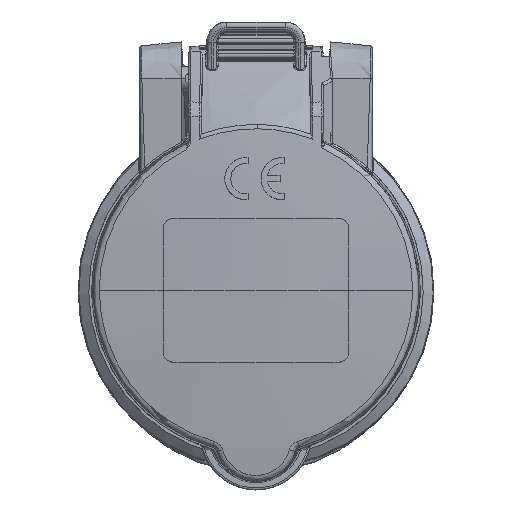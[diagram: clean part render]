
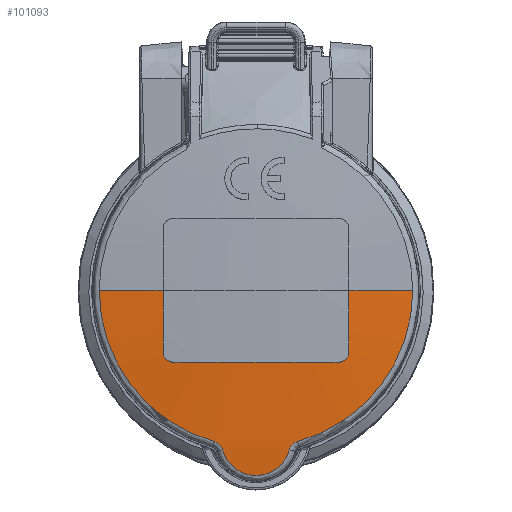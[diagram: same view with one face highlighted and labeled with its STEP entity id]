
A CAD part, top view. The second image highlights one B-rep face of the part: STEP entity #101093.
In plain terms, the highlighted spherical face has radius 250 mm.
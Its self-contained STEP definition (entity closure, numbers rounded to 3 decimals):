
#31221=CARTESIAN_POINT('',(-14.25,0.,
-239.3));
#31222=DIRECTION('',(-1.,0.,0.));
#31223=DIRECTION('',(0.,-0.038,0.999));
#31224=AXIS2_PLACEMENT_3D('',#31221,#31222,#31223);
#31229=CARTESIAN_POINT('',(-12.75,-11.,
10.132));
#31230=CARTESIAN_POINT('',(-12.881,-11.,
10.126));
#31231=CARTESIAN_POINT('',(-13.143,-10.966,
10.113));
#31232=CARTESIAN_POINT('',(-13.509,-10.814,
10.101));
#31233=CARTESIAN_POINT('',(-13.823,-10.573,
10.094));
#31234=CARTESIAN_POINT('',(-14.064,-10.259,
10.093));
#31235=CARTESIAN_POINT('',(-14.215,-9.893,
10.099));
#31236=CARTESIAN_POINT('',(-14.25,-9.631,
10.108));
#31237=CARTESIAN_POINT('',(-14.25,-9.5,
10.113));
#31242=CARTESIAN_POINT('',(0.,-11.,
-239.3));
#31243=DIRECTION('',(0.,-1.,0.));
#31244=DIRECTION('',(0.051,0.,0.999));
#31245=AXIS2_PLACEMENT_3D('',#31242,#31243,#31244);
#31250=CARTESIAN_POINT('',(14.25,-9.5,
10.113));
#31251=CARTESIAN_POINT('',(14.25,-9.631,
10.108));
#31252=CARTESIAN_POINT('',(14.216,-9.893,
10.099));
#31253=CARTESIAN_POINT('',(14.064,-10.258,
10.093));
#31254=CARTESIAN_POINT('',(13.823,-10.572,
10.094));
#31255=CARTESIAN_POINT('',(13.509,-10.814,
10.101));
#31256=CARTESIAN_POINT('',(13.143,-10.965,
10.113));
#31257=CARTESIAN_POINT('',(12.881,-11.,
10.126));
#31258=CARTESIAN_POINT('',(12.75,-11.,
10.132));
#31263=CARTESIAN_POINT('',(14.25,0.,
-239.3));
#31264=DIRECTION('',(1.,0.,0.));
#31265=DIRECTION('',(0.,0.,1.));
#31266=AXIS2_PLACEMENT_3D('',#31263,#31264,#31265);
#31271=CARTESIAN_POINT('',(0.,0.,
-239.3));
#31272=DIRECTION('',(0.,-1.,0.));
#31273=DIRECTION('',(0.096,0.,0.995));
#31274=AXIS2_PLACEMENT_3D('',#31271,#31272,#31273);
#31279=CARTESIAN_POINT('',(0.,0.,
9.54));
#31280=DIRECTION('',(0.,0.,1.));
#31281=DIRECTION('',(0.265,-0.964,0.));
#31282=AXIS2_PLACEMENT_3D('',#31279,#31280,#31281);
#31287=CARTESIAN_POINT('',(5.102,-24.472,
9.447));
#31288=CARTESIAN_POINT('',(5.143,-24.316,
9.461));
#31289=CARTESIAN_POINT('',(5.263,-24.028,
9.487));
#31290=CARTESIAN_POINT('',(5.552,-23.649,
9.517));
#31291=CARTESIAN_POINT('',(5.931,-23.359,
9.536));
#31292=CARTESIAN_POINT('',(6.212,-23.241,
9.54));
#31293=CARTESIAN_POINT('',(6.365,-23.199,
9.54));
#31298=CARTESIAN_POINT('',(-5.101,-24.472,
9.447));
#31299=CARTESIAN_POINT('',(-5.008,-24.82,
9.415));
#31300=CARTESIAN_POINT('',(-4.756,-25.484,
9.353));
#31301=CARTESIAN_POINT('',(-4.182,-26.392,
9.269));
#31302=CARTESIAN_POINT('',(-3.44,-27.162,
9.197));
#31303=CARTESIAN_POINT('',(-2.56,-27.769,
9.141));
#31304=CARTESIAN_POINT('',(-1.577,-28.186,
9.102));
#31305=CARTESIAN_POINT('',(-0.532,-28.399,
9.082));
#31306=CARTESIAN_POINT('',(0.535,-28.399,
9.082));
#31307=CARTESIAN_POINT('',(1.58,-28.185,
9.102));
#31308=CARTESIAN_POINT('',(2.562,-27.767,
9.141));
#31309=CARTESIAN_POINT('',(3.442,-27.161,
9.197));
#31310=CARTESIAN_POINT('',(4.184,-26.389,
9.269));
#31311=CARTESIAN_POINT('',(4.758,-25.482,
9.353));
#31312=CARTESIAN_POINT('',(5.009,-24.819,9.415));
#31313=CARTESIAN_POINT('',(5.102,-24.472,
9.447));
#31318=CARTESIAN_POINT('',(-6.364,-23.199,
9.54));
#31319=CARTESIAN_POINT('',(-6.21,-23.242,
9.54));
#31320=CARTESIAN_POINT('',(-5.926,-23.362,
9.536));
#31321=CARTESIAN_POINT('',(-5.55,-23.651,
9.517));
#31322=CARTESIAN_POINT('',(-5.263,-24.028,
9.487));
#31323=CARTESIAN_POINT('',(-5.143,-24.316,
9.462));
#31324=CARTESIAN_POINT('',(-5.101,-24.472,
9.447));
#31329=CARTESIAN_POINT('',(0.,0.,
9.54));
#31330=DIRECTION('',(0.,0.,1.));
#31331=DIRECTION('',(-1.,0.,0.));
#31332=AXIS2_PLACEMENT_3D('',#31329,#31330,#31331);
#31337=CARTESIAN_POINT('',(0.,0.,
-239.3));
#31338=DIRECTION('',(0.,1.,0.));
#31339=DIRECTION('',(-0.096,0.,0.995));
#31340=AXIS2_PLACEMENT_3D('',#31337,#31338,#31339);
#39264=CARTESIAN_POINT('',(-14.25,-9.5,
10.113));
#39266=VERTEX_POINT('',#39264);
#39268=CARTESIAN_POINT('',(-12.75,-11.,
10.132));
#39270=VERTEX_POINT('',#39268);
#39272=CARTESIAN_POINT('',(12.75,-11.,
10.132));
#39274=VERTEX_POINT('',#39272);
#39276=CARTESIAN_POINT('',(14.25,-9.5,
10.113));
#39278=VERTEX_POINT('',#39276);
#39394=CARTESIAN_POINT('',(6.365,-23.199,
9.54));
#39395=CARTESIAN_POINT('',(24.057,0.,
9.54));
#39396=VERTEX_POINT('',#39394);
#39397=VERTEX_POINT('',#39395);
#39398=VERTEX_POINT('',#31287);
#39401=VERTEX_POINT('',#31298);
#39403=VERTEX_POINT('',#31318);
#39405=CARTESIAN_POINT('',(-24.056,0.,
9.54));
#39406=VERTEX_POINT('',#39405);
#39417=CARTESIAN_POINT('',(-14.25,0.,
10.294));
#39418=VERTEX_POINT('',#39417);
#39419=CARTESIAN_POINT('',(14.25,0.,
10.294));
#39420=VERTEX_POINT('',#39419);
#101065=CARTESIAN_POINT('',(0.,0.,
-239.3));
#101066=DIRECTION('',(0.,0.,-1.));
#101067=DIRECTION('',(1.,0.,0.));
#101068=AXIS2_PLACEMENT_3D('',#101065,#101066,#101067);
#101069=SPHERICAL_SURFACE('519',#101068,250.);
#101071=ORIENTED_EDGE('2875',*,*,#101070,.F.);
#101073=ORIENTED_EDGE('2876',*,*,#101072,.F.);
#101075=ORIENTED_EDGE('2877',*,*,#101074,.F.);
#101077=ORIENTED_EDGE('2878',*,*,#101076,.F.);
#101079=ORIENTED_EDGE('2879',*,*,#101078,.F.);
#101080=ORIENTED_EDGE('2881',*,*,#100253,.F.);
#101082=ORIENTED_EDGE('2845',*,*,#101081,.F.);
#101084=ORIENTED_EDGE('2846',*,*,#101083,.F.);
#101086=ORIENTED_EDGE('2848',*,*,#101085,.F.);
#101088=ORIENTED_EDGE('2850',*,*,#101087,.F.);
#101089=ORIENTED_EDGE('2852',*,*,#101045,.F.);
#101090=ORIENTED_EDGE('2880',*,*,#100265,.T.);
#101091=EDGE_LOOP('519',(#101071,#101073,#101075,#101077,#101079,#101080,
#101082,#101084,#101086,#101088,#101089,#101090));
#101092=FACE_OUTER_BOUND('519',#101091,.F.);
#31225=CIRCLE('2875',#31224,249.594);
#31238=B_SPLINE_CURVE_WITH_KNOTS('2876',3,(#31229,#31230,#31231,#31232,#31233,
#31234,#31235,#31236,#31237),.UNSPECIFIED.,.F.,.F.,(4,1,1,1,1,1,4),(0.,
0.167,0.333,0.5,0.667,0.833,
1.),.UNSPECIFIED.);
#31246=CIRCLE('2877',#31245,249.758);
#31259=B_SPLINE_CURVE_WITH_KNOTS('2878',3,(#31250,#31251,#31252,#31253,#31254,
#31255,#31256,#31257,#31258),.UNSPECIFIED.,.F.,.F.,(4,1,1,1,1,1,4),(0.,
0.167,0.333,0.5,0.667,0.833,
1.),.UNSPECIFIED.);
#31267=CIRCLE('2879',#31266,249.594);
#31275=CIRCLE('2881',#31274,250.);
#31283=CIRCLE('2845',#31282,24.057);
#31294=B_SPLINE_CURVE_WITH_KNOTS('2846',3,(#31287,#31288,#31289,#31290,#31291,
#31292,#31293),.UNSPECIFIED.,.F.,.F.,(4,1,1,1,4),(0.,0.25,0.5,0.75,
1.),.UNSPECIFIED.);
#31314=B_SPLINE_CURVE_WITH_KNOTS('2848',3,(#31298,#31299,#31300,#31301,#31302,
#31303,#31304,#31305,#31306,#31307,#31308,#31309,#31310,#31311,#31312,#31313),
.UNSPECIFIED.,.F.,.F.,(4,1,1,1,1,1,1,1,1,1,1,1,1,4),(0.,0.077,
0.154,0.231,0.308,0.385,
0.462,0.538,0.615,0.692,
0.769,0.846,0.923,1.),.UNSPECIFIED.);
#31325=B_SPLINE_CURVE_WITH_KNOTS('2850',3,(#31318,#31319,#31320,#31321,#31322,
#31323,#31324),.UNSPECIFIED.,.F.,.F.,(4,1,1,1,4),(0.,0.25,0.5,0.75,
1.),.UNSPECIFIED.);
#31333=CIRCLE('2852',#31332,24.057);
#31341=CIRCLE('2880',#31340,250.);
#100253=EDGE_CURVE('2881',#39397,#39420,#31275,.T.);
#100265=EDGE_CURVE('2880',#39406,#39418,#31341,.T.);
#101045=EDGE_CURVE('2852',#39406,#39403,#31333,.T.);
#101070=EDGE_CURVE('2875',#39266,#39418,#31225,.T.);
#101072=EDGE_CURVE('2876',#39270,#39266,#31238,.T.);
#101074=EDGE_CURVE('2877',#39274,#39270,#31246,.T.);
#101076=EDGE_CURVE('2878',#39278,#39274,#31259,.T.);
#101078=EDGE_CURVE('2879',#39420,#39278,#31267,.T.);
#101081=EDGE_CURVE('2845',#39396,#39397,#31283,.T.);
#101083=EDGE_CURVE('2846',#39398,#39396,#31294,.T.);
#101085=EDGE_CURVE('2848',#39401,#39398,#31314,.T.);
#101087=EDGE_CURVE('2850',#39403,#39401,#31325,.T.);
#101093=ADVANCED_FACE('519',(#101092),#101069,.T.);
